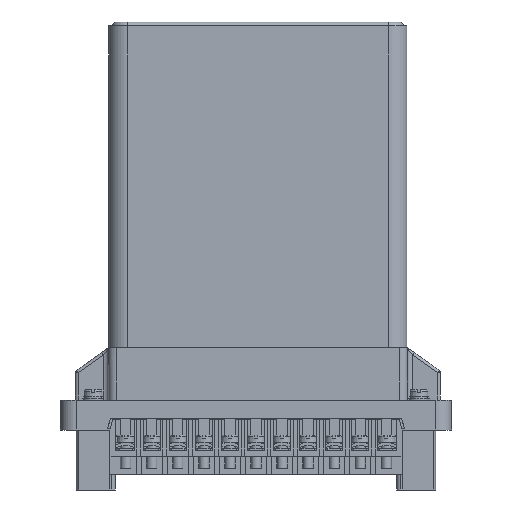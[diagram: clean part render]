
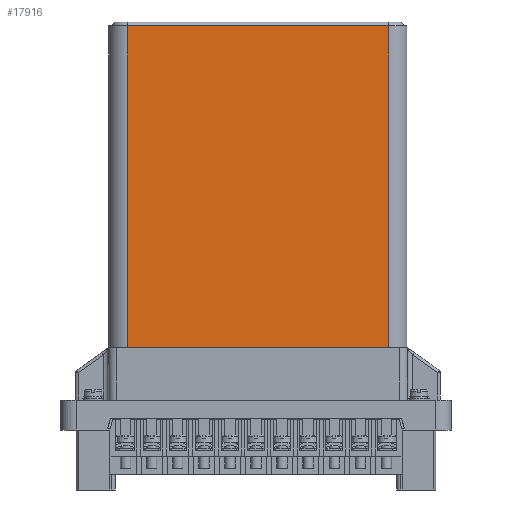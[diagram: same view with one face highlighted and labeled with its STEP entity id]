
A CAD part, left-side view. The second image highlights one B-rep face of the part: STEP entity #17916.
In plain terms, the highlighted planar face has unit normal (-1, 0, 0).
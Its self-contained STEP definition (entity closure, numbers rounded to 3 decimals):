
#17916=ADVANCED_FACE('',(#80632),#80634,.T.);
#80632=FACE_BOUND('',#80633,.T.);
#80633=EDGE_LOOP('',(#131099,#131100,#131101,#131102));
#80634=PLANE('',#80635);
#80635=AXIS2_PLACEMENT_3D('',#80636,#80637,#80638);
#80636=CARTESIAN_POINT('',(-32.4,49.4,31.5));
#80637=DIRECTION('',(-1.,0.,0.));
#80638=DIRECTION('',(0.,-1.,0.));
#131099=ORIENTED_EDGE('',*,*,#162880,.T.);
#131100=ORIENTED_EDGE('',*,*,#163406,.T.);
#131101=ORIENTED_EDGE('',*,*,#163407,.F.);
#131102=ORIENTED_EDGE('',*,*,#163408,.F.);
#162880=EDGE_CURVE('',#184231,#184229,#184232,.T.);
#163406=EDGE_CURVE('',#184229,#185081,#185083,.T.);
#163407=EDGE_CURVE('',#185084,#185081,#185085,.T.);
#163408=EDGE_CURVE('',#184231,#185084,#185086,.T.);
#184229=VERTEX_POINT('',#223868);
#184231=VERTEX_POINT('',#223873);
#184232=LINE('',#223874,#223875);
#185081=VERTEX_POINT('',#226360);
#185083=LINE('',#226365,#226366);
#185084=VERTEX_POINT('',#226368);
#185085=LINE('',#226369,#226370);
#185086=LINE('',#226372,#226373);
#223868=CARTESIAN_POINT('',(-32.4,-50.9,31.5));
#223873=CARTESIAN_POINT('',(-32.4,49.4,31.5));
#223874=CARTESIAN_POINT('',(-32.4,49.4,31.5));
#223875=VECTOR('',#223876,1.);
#223876=DIRECTION('',(0.,-1.,0.));
#226360=CARTESIAN_POINT('',(-32.4,-50.9,155.));
#226365=CARTESIAN_POINT('',(-32.4,-50.9,31.5));
#226366=VECTOR('',#226367,1.);
#226367=DIRECTION('',(0.,0.,1.));
#226368=CARTESIAN_POINT('',(-32.4,49.4,155.));
#226369=CARTESIAN_POINT('',(-32.4,49.4,155.));
#226370=VECTOR('',#226371,1.);
#226371=DIRECTION('',(0.,-1.,0.));
#226372=CARTESIAN_POINT('',(-32.4,49.4,31.5));
#226373=VECTOR('',#226374,1.);
#226374=DIRECTION('',(0.,0.,1.));
